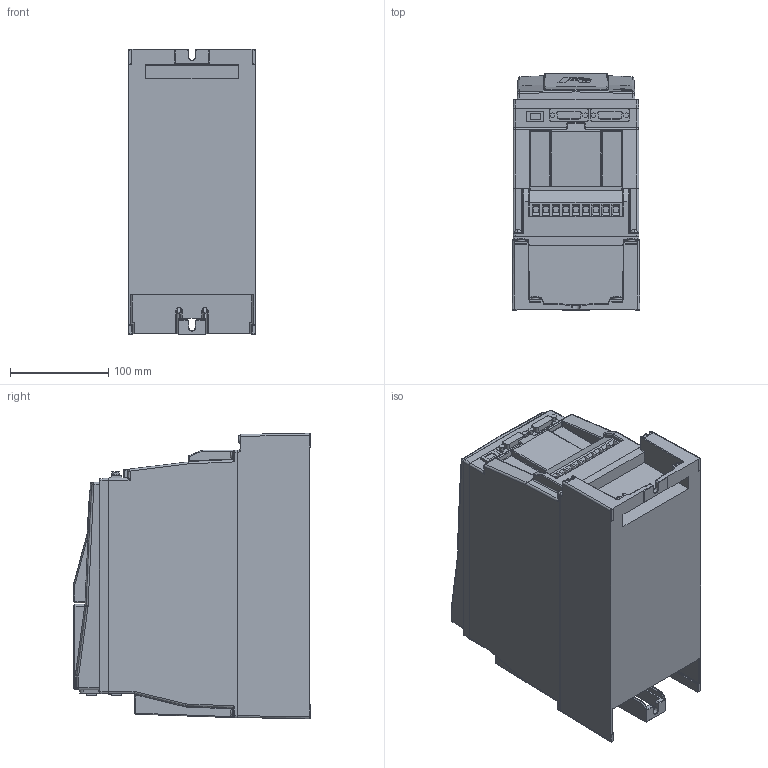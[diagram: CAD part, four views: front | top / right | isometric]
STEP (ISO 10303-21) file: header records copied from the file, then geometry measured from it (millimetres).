
FILE_DESCRIPTION (( 'STEP AP214' ), '1' );
FILE_NAME ('F6-2TR0-A010.STEP', '2020-11-30T13:31:02', ( '' ), ( '' ), 'SwSTEP 2.0', 'SolidWorks 2019', '' );
FILE_SCHEMA (( 'AUTOMOTIVE_DESIGN' ));
Length unit declared in the file: millimetre
Products named in the file (1): F6-2TR0-A010
Bounding box: 130 x 240 x 290 mm (x, y, z)
Volume: 7087493.5 mm3; surface area: 301480.4 mm2
Topology: 2 solids, 2 shells, 1337 faces, 3313 edges, 1963 vertices
Faces by surface type: plane 571, cylinder 382, bspline 245, sphere 60, torus 55, cone 24
Entity records: 47053 total; most frequent: CARTESIAN_POINT 17807, ORIENTED_EDGE 6482, DIRECTION 5477, EDGE_CURVE 3241, VERTEX_POINT 1963, AXIS2_PLACEMENT_3D 1856, LINE 1765, VECTOR 1765
